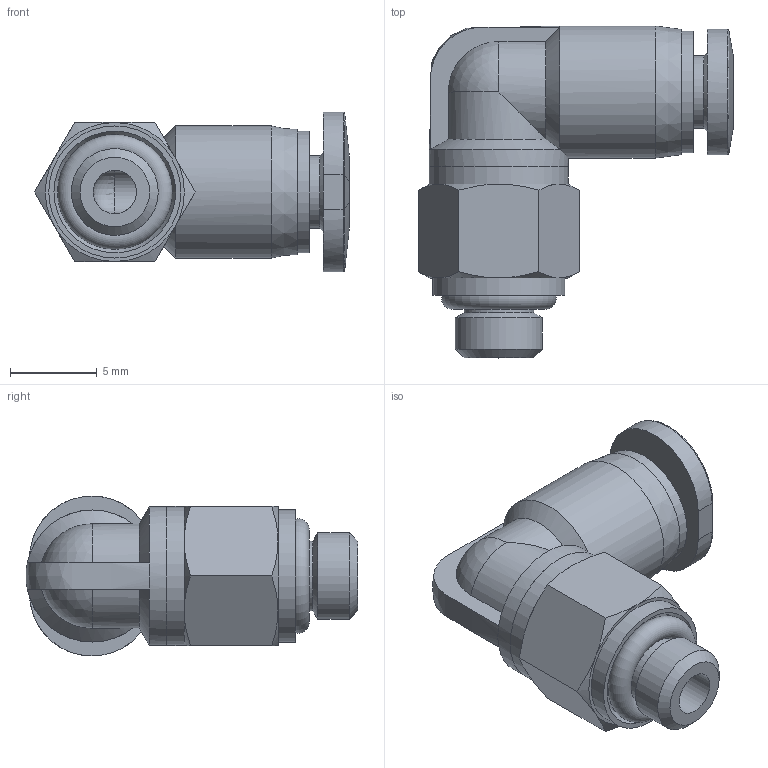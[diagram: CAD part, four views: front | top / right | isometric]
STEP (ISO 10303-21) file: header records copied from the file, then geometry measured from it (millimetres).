
FILE_DESCRIPTION((''),'2;1');
FILE_NAME('D:\INVENTOR\[New Inventor]\CDC Products 3D Ass''y\Compact One-Touch Fittings\Metric\PL-C\PL03-M5C.stp','2010-10-01T17:32:11',('Microsoft'),(''),'Autodesk Inventor 2008','Autodesk Inventor 2008','');
FILE_SCHEMA(('AUTOMOTIVE_DESIGN { 1 0 10303 214 1 1 1 1 }'));
Length unit declared in the file: millimetre
Products named in the file (1): PL03-M5C
Bounding box: 18.12 x 19.1 x 9.2 mm (x, y, z)
Volume: 979.8 mm3; surface area: 1202.7 mm2
Topology: 2 solids, 2 shells, 82 faces, 183 edges, 107 vertices
Faces by surface type: plane 22, cone 22, cylinder 19, bspline 13, torus 3, sphere 3
Full cylindrical faces by diameter (mm): 2.5 x2, 3.2 x1, 4 x2, 4.2 x1, 5 x1, 6.2 x1, 7 x1, 7.6 x2, 8 x2
Entity records: 3040 total; most frequent: CARTESIAN_POINT 1471, DIRECTION 310, ORIENTED_EDGE 300, EDGE_CURVE 150, AXIS2_PLACEMENT_3D 147, EDGE_LOOP 116, VERTEX_POINT 100, FACE_OUTER_BOUND 82
